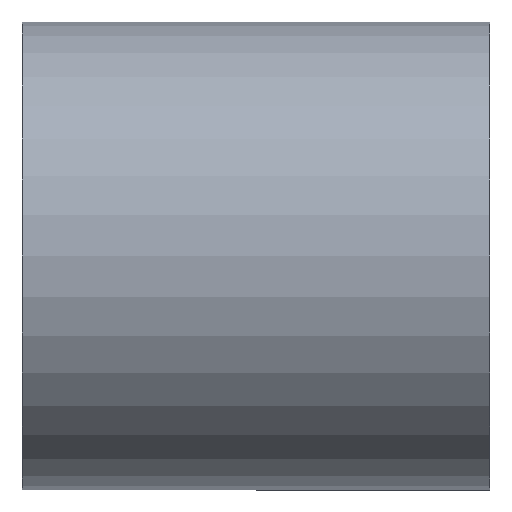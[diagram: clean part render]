
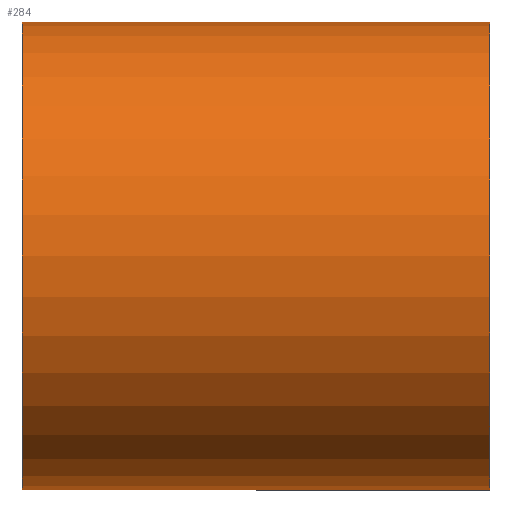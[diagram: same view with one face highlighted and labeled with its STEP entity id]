
A CAD part, front view. The second image highlights one B-rep face of the part: STEP entity #284.
In plain terms, the highlighted cylindrical face has radius 5 mm (diameter 10 mm), a partial arc.
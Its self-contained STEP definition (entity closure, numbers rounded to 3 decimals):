
#2 = VERTEX_POINT ( 'NONE', #248 ) ;
#10 = AXIS2_PLACEMENT_3D ( 'NONE', #616, #728, #381 ) ;
#36 = VERTEX_POINT ( 'NONE', #636 ) ;
#61 = ORIENTED_EDGE ( 'NONE', *, *, #250, .T. ) ;
#121 = ORIENTED_EDGE ( 'NONE', *, *, #325, .F. ) ;
#150 = CARTESIAN_POINT ( 'NONE',  ( 5., 0., 0. ) ) ;
#171 = AXIS2_PLACEMENT_3D ( 'NONE', #150, #422, #598 ) ;
#205 = DIRECTION ( 'NONE',  ( -1., 0., 0. ) ) ;
#224 = DIRECTION ( 'NONE',  ( -1., 0., 0. ) ) ;
#230 = LINE ( 'NONE', #619, #321 ) ;
#248 = CARTESIAN_POINT ( 'NONE',  ( 5., 0., -5. ) ) ;
#250 = EDGE_CURVE ( 'NONE', #283, #604, #541, .T. ) ;
#260 = DIRECTION ( 'NONE',  ( 0., 0., 1. ) ) ;
#283 = VERTEX_POINT ( 'NONE', #655 ) ;
#284 = ADVANCED_FACE ( 'NONE', ( #488 ), #316, .T. ) ;
#316 = CYLINDRICAL_SURFACE ( 'NONE', #10, 5. ) ;
#321 = VECTOR ( 'NONE', #224, 1000. ) ;
#325 = EDGE_CURVE ( 'NONE', #2, #36, #230, .T. ) ;
#355 = ORIENTED_EDGE ( 'NONE', *, *, #562, .F. ) ;
#381 = DIRECTION ( 'NONE',  ( 0., 0., 1. ) ) ;
#422 = DIRECTION ( 'NONE',  ( -1., 0., 0. ) ) ;
#435 = AXIS2_PLACEMENT_3D ( 'NONE', #701, #205, #260 ) ;
#459 = VECTOR ( 'NONE', #482, 1000. ) ;
#475 = CARTESIAN_POINT ( 'NONE',  ( 0., 0., 5. ) ) ;
#482 = DIRECTION ( 'NONE',  ( -1., 0., 0. ) ) ;
#488 = FACE_OUTER_BOUND ( 'NONE', #546, .T. ) ;
#541 = LINE ( 'NONE', #475, #459 ) ;
#543 = ORIENTED_EDGE ( 'NONE', *, *, #586, .T. ) ;
#546 = EDGE_LOOP ( 'NONE', ( #121, #543, #61, #355 ) ) ;
#562 = EDGE_CURVE ( 'NONE', #36, #604, #613, .T. ) ;
#564 = CARTESIAN_POINT ( 'NONE',  ( -5., 0., 5. ) ) ;
#578 = CIRCLE ( 'NONE', #171, 5. ) ;
#586 = EDGE_CURVE ( 'NONE', #2, #283, #578, .T. ) ;
#598 = DIRECTION ( 'NONE',  ( 0., 0., 1. ) ) ;
#604 = VERTEX_POINT ( 'NONE', #564 ) ;
#613 = CIRCLE ( 'NONE', #435, 5. ) ;
#616 = CARTESIAN_POINT ( 'NONE',  ( 0., 0., 0. ) ) ;
#619 = CARTESIAN_POINT ( 'NONE',  ( 0., 0., -5. ) ) ;
#636 = CARTESIAN_POINT ( 'NONE',  ( -5., 0., -5. ) ) ;
#655 = CARTESIAN_POINT ( 'NONE',  ( 5., 0., 5. ) ) ;
#701 = CARTESIAN_POINT ( 'NONE',  ( -5., 0., 0. ) ) ;
#728 = DIRECTION ( 'NONE',  ( -1., 0., 0. ) ) ;
